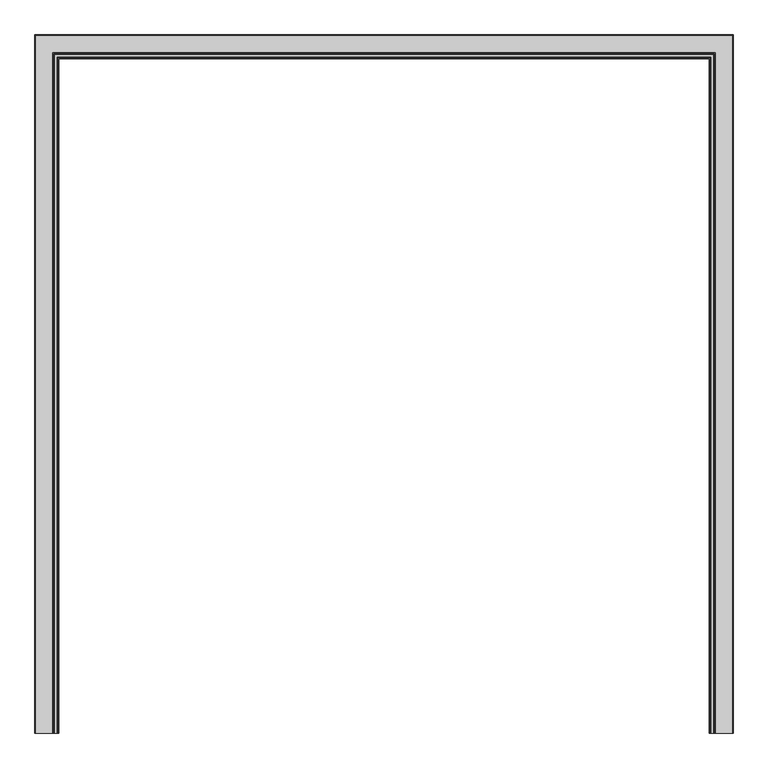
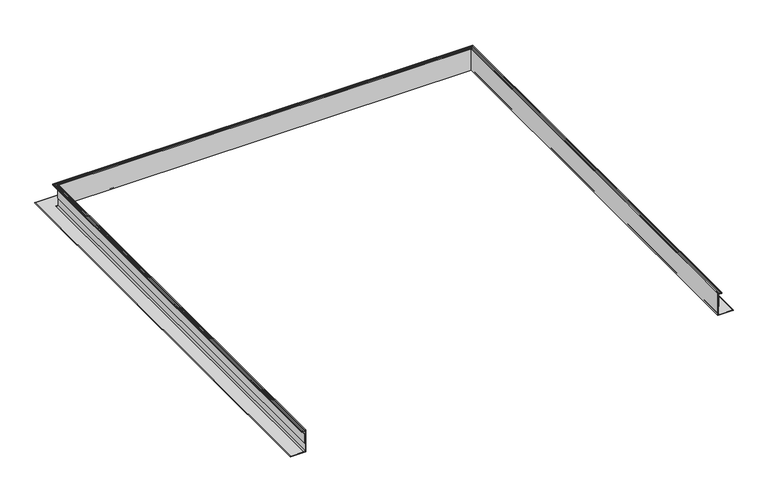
"""IFC4 building model written with IfcOpenShell, lengths in millimetres: fastener geometry."""

from ifc_helpers import new_model, si_unit, frame, origin, place, context, project, spatial, polyline, circle_curve, ellipse_curve, outline, extrude, source, transform, mapped, element, save
from ifc_brep_helpers import plane_surface, cylinder_surface, revolved_surface, advanced_brep


def fastener_5f563760(model_context):
    return source(origin(), model_context, "Body", "SolidModel", [
        advanced_brep(
        [(-1135.3165, -1219.2, -15.1804688), (-1141.2343456, -1219.2, -15.1804688), (-1141.460117, -1219.2, -17.1999455), (-1140.3710112, -1219.2, -18.2679836), (-1140.8594568, -1219.2, -19.21101), (-1152.5091166, -1219.2, -19.21101), (-1152.9649499, -1219.2, -18.2679836), (-1151.9131963, -1219.2, -17.1999455), (-1152.1178999, -1219.2, -15.1804688), (-1156.2117258, -1219.2, -15.1804688), (-1156.2117258, -1219.2, -21.87801), (-1137.9835, -1219.2, -21.87801), (-1137.9835, -1219.2, -131.9625171), (-1145.5344517, -1219.2, -139.5134688), (-1217.8665, -1219.2, -139.5134688), (-1217.8665, -1219.2, -142.1804688), (-1135.3165, -1219.2, -142.1804688), (1135.3165, -1219.2, -15.1804688), (1135.3165, -1219.2, -142.1804688), (1217.8665, -1219.2, -142.1804688), (1217.8665, -1219.2, -139.5134688), (1145.5344517, -1219.2, -139.5134688), (1137.9835, -1219.2, -131.9625171), (1137.9835, -1219.2, -21.87801), (1156.2117258, -1219.2, -21.87801), (1156.2117258, -1219.2, -15.1804688), (1152.1178999, -1219.2, -15.1804688), (1151.9131963, -1219.2, -17.1999455), (1152.9649499, -1219.2, -18.2679836), (1152.5091166, -1219.2, -19.21101), (1140.8594568, -1219.2, -19.21101), (1140.3710112, -1219.2, -18.2679836), (1141.460117, -1219.2, -17.1999455), (1141.2343456, -1219.2, -15.1804688), (-1141.460117, 1141.460117, -17.1999455), (-1141.2343456, 1141.2343456, -15.1804688), (1141.2343456, 1141.2343456, -15.1804688), (1141.460117, 1141.460117, -17.1999455), (-1140.3710112, 1140.3710112, -18.2679836), (1140.3710112, 1140.3710112, -18.2679836), (-1140.8594568, 1140.8594568, -19.21101), (1140.8594568, 1140.8594568, -19.21101), (-1152.9649499, 1152.9649499, -18.2679836), (-1152.5091166, 1152.5091166, -19.21101), (1152.5091166, 1152.5091166, -19.21101), (1152.9649499, 1152.9649499, -18.2679836), (-1151.9131963, 1151.9131963, -17.1999455), (1151.9131963, 1151.9131963, -17.1999455), (-1152.1178999, 1152.1178999, -15.1804688), (1152.1178999, 1152.1178999, -15.1804688), (-1156.2117258, 1156.2117258, -21.87801), (-1156.2117258, 1156.2117258, -15.1804688), (1156.2117258, 1156.2117258, -15.1804688), (1156.2117258, 1156.2117258, -21.87801), (-1137.9835, 1137.9835, -131.9625171), (-1137.9835, 1137.9835, -21.87801), (1137.9835, 1137.9835, -21.87801), (1137.9835, 1137.9835, -131.9625171), (-1145.5344517, 1145.5344517, -139.5134688), (1145.5344517, 1145.5344517, -139.5134688), (-1217.8665, 1217.8665, -142.1804688), (-1217.8665, 1217.8665, -139.5134688), (1217.8665, 1217.8665, -139.5134688), (1217.8665, 1217.8665, -142.1804688), (-1135.3165, 1135.3165, -15.1804688), (-1135.3165, 1135.3165, -142.1804688), (1135.3165, 1135.3165, -142.1804688), (1135.3165, 1135.3165, -15.1804688)],
        [
            (0, 1),
            (1, 2, circle_curve(frame((-1140.5022273, -1219.2, -16.284676), z_axis=(0.0, -1.0, 0.0), x_axis=(-1.0, 0.0, 0.0)), 1.3248664)),
            (2, 3),
            (3, 4, circle_curve(frame((-1140.8594568, -1219.2, -18.6130003), z_axis=(0.0, 1.0, 0.0), x_axis=(-1.0, 0.0, 0.0)), 0.5980097)),
            (4, 5),
            (5, 6, circle_curve(frame((-1152.5091166, -1219.2, -18.6293281), z_axis=(0.0, 1.0, 0.0), x_axis=(-1.0, 0.0, 0.0)), 0.5816819)),
            (6, 7),
            (7, 8, circle_curve(frame((-1152.8274757, -1219.2, -16.2725079), z_axis=(0.0, -1.0, 0.0), x_axis=(-1.0, 0.0, 0.0)), 1.3023238)),
            (8, 9),
            (9, 10),
            (10, 11),
            (11, 12),
            (12, 13, circle_curve(frame((-1145.5344517, -1219.2, -131.9625171), z_axis=(0.0, 1.0, 0.0), x_axis=(-1.0, 0.0, 0.0)), 7.5509517)),
            (13, 14),
            (14, 15, circle_curve(frame((-1217.8665, -1219.2, -140.8469688), z_axis=(0.0, -1.0, 0.0), x_axis=(-1.0, 0.0, 0.0)), 1.3335)),
            (15, 16),
            (16, 0),
            (17, 18),
            (18, 19),
            (19, 20, circle_curve(frame((1217.8665, -1219.2, -140.8469688), z_axis=(0.0, -1.0, 0.0), x_axis=(1.0, 0.0, 0.0)), 1.3335)),
            (20, 21),
            (21, 22, circle_curve(frame((1145.5344517, -1219.2, -131.9625171), z_axis=(0.0, 1.0, 0.0), x_axis=(1.0, 0.0, 0.0)), 7.5509517)),
            (22, 23),
            (23, 24),
            (24, 25),
            (25, 26),
            (26, 27, circle_curve(frame((1152.8274757, -1219.2, -16.2725079), z_axis=(0.0, -1.0, 0.0), x_axis=(1.0, 0.0, 0.0)), 1.3023238)),
            (27, 28),
            (28, 29, circle_curve(frame((1152.5091166, -1219.2, -18.6293281), z_axis=(0.0, 1.0, 0.0), x_axis=(1.0, 0.0, 0.0)), 0.5816819)),
            (29, 30),
            (30, 31, circle_curve(frame((1140.8594568, -1219.2, -18.6130003), z_axis=(0.0, 1.0, 0.0), x_axis=(1.0, 0.0, 0.0)), 0.5980097)),
            (31, 32),
            (32, 33, circle_curve(frame((1140.5022273, -1219.2, -16.284676), z_axis=(0.0, -1.0, 0.0), x_axis=(1.0, 0.0, 0.0)), 1.3248664)),
            (33, 17),
            (34, 35, ellipse_curve(frame((-1140.5022273, 1140.5022273, -16.284676), z_axis=(0.7071067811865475, 0.7071067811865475, 0.0), x_axis=(-0.7071067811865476, 0.7071067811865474, 0.0)), 1.873644, 1.3248664)),
            (35, 36),
            (36, 37, ellipse_curve(frame((1140.5022273, 1140.5022273, -16.284676), z_axis=(-0.7071067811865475, 0.7071067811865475, 0.0), x_axis=(-0.7071067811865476, -0.7071067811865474, 0.0)), 1.873644, 1.3248664)),
            (37, 34),
            (38, 34),
            (37, 39),
            (39, 38),
            (40, 38, ellipse_curve(frame((-1140.8594568, 1140.8594568, -18.6130003), z_axis=(-0.7071067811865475, -0.7071067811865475, 0.0), x_axis=(0.7071067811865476, -0.7071067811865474, 0.0)), 0.8457134, 0.5980097)),
            (39, 41, ellipse_curve(frame((1140.8594568, 1140.8594568, -18.6130003), z_axis=(0.7071067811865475, -0.7071067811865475, 0.0), x_axis=(0.7071067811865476, 0.7071067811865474, 0.0)), 0.8457134, 0.5980097)),
            (41, 40),
            (42, 43, ellipse_curve(frame((-1152.5091166, 1152.5091166, -18.6293281), z_axis=(-0.7071067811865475, -0.7071067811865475, 0.0), x_axis=(0.7071067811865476, -0.7071067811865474, 0.0)), 0.8226224, 0.5816819)),
            (43, 44),
            (44, 45, ellipse_curve(frame((1152.5091166, 1152.5091166, -18.6293281), z_axis=(0.7071067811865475, -0.7071067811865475, 0.0), x_axis=(0.7071067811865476, 0.7071067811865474, 0.0)), 0.8226224, 0.5816819)),
            (45, 42),
            (46, 42),
            (45, 47),
            (47, 46),
            (48, 46, ellipse_curve(frame((-1152.8274757, 1152.8274757, -16.2725079), z_axis=(0.7071067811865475, 0.7071067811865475, 0.0), x_axis=(-0.7071067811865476, 0.7071067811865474, 0.0)), 1.841764, 1.3023238)),
            (47, 49, ellipse_curve(frame((1152.8274757, 1152.8274757, -16.2725079), z_axis=(-0.7071067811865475, 0.7071067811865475, 0.0), x_axis=(-0.7071067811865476, -0.7071067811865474, 0.0)), 1.841764, 1.3023238)),
            (49, 48),
            (50, 51),
            (51, 52),
            (52, 53),
            (53, 50),
            (54, 55),
            (55, 56),
            (56, 57),
            (57, 54),
            (58, 54, ellipse_curve(frame((-1145.5344517, 1145.5344517, -131.9625171), z_axis=(-0.7071067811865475, -0.7071067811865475, 0.0), x_axis=(0.7071067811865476, -0.7071067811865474, 0.0)), 10.6786583, 7.5509517)),
            (57, 59, ellipse_curve(frame((1145.5344517, 1145.5344517, -131.9625171), z_axis=(0.7071067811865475, -0.7071067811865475, 0.0), x_axis=(0.7071067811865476, 0.7071067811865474, 0.0)), 10.6786583, 7.5509517)),
            (59, 58),
            (60, 61, ellipse_curve(frame((-1217.8665, 1217.8665, -140.8469688), z_axis=(0.7071067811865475, 0.7071067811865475, 0.0), x_axis=(-0.7071067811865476, 0.7071067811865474, 0.0)), 1.8858538, 1.3335)),
            (61, 62),
            (62, 63, ellipse_curve(frame((1217.8665, 1217.8665, -140.8469688), z_axis=(-0.7071067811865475, 0.7071067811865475, 0.0), x_axis=(-0.7071067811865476, -0.7071067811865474, 0.0)), 1.8858538, 1.3335)),
            (63, 60),
            (64, 65),
            (65, 66),
            (66, 67),
            (67, 64),
            (0, 64),
            (67, 17),
            (33, 36),
            (35, 1),
            (34, 2),
            (38, 3),
            (40, 4),
            (41, 30),
            (29, 44),
            (43, 5),
            (42, 6),
            (46, 7),
            (48, 8),
            (49, 26),
            (25, 52),
            (51, 9),
            (50, 10),
            (53, 24),
            (23, 56),
            (55, 11),
            (54, 12),
            (58, 13),
            (59, 21),
            (20, 62),
            (61, 14),
            (60, 15),
            (63, 19),
            (18, 66),
            (65, 16),
            (32, 37),
            (31, 39),
            (28, 45),
            (27, 47),
            (22, 57),
        ],
        [
            plane_surface(frame((-1219.2, -1219.2, 0.0), z_axis=(0.0, -1.0, 0.0), x_axis=(0.0, 0.0, 1.0))),
            plane_surface(frame((1219.2, -1219.2, 0.0), z_axis=(0.0, -1.0, 0.0), x_axis=(0.0, 0.0, 1.0))),
            cylinder_surface(frame((-1219.2, 1140.5022273, -16.284676), z_axis=(-1.0, 0.0, 0.0), x_axis=(0.0, 1.0, 0.0)), 1.3248664),
            plane_surface(frame((-1141.460117, 1141.460117, -17.1999455), z_axis=(0.0, 0.7001674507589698, -0.7139786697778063), x_axis=(1.0, 0.0, 0.0))),
            revolved_surface(polyline([(1141.4574664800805, 1141.4574665, -18.6130003), (-1141.4574664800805, 1141.4574665, -18.6130003)]), (-1219.2, 1140.8594568, -18.6130003), (1.0, 0.0, 0.0)),
            revolved_surface(polyline([(1153.090798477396, 1153.0907985, -18.6293281), (-1153.090798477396, 1153.0907985, -18.6293281)]), (-1219.2, 1152.5091166, -18.6293281), (1.0, 0.0, 0.0)),
            plane_surface(frame((-1152.9649499, 1152.9649499, -18.2679836), z_axis=(0.0, -0.712517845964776, -0.701653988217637), x_axis=(1.0, 0.0, 0.0))),
            cylinder_surface(frame((-1219.2, 1152.8274757, -16.2725079), z_axis=(-1.0, 0.0, 0.0), x_axis=(0.0, 1.0, 0.0)), 1.3023238),
            plane_surface(frame((-1156.2117258, 1156.2117258, -15.1804688), z_axis=(0.0, 1.0, 0.0), x_axis=(1.0, 0.0, 0.0))),
            plane_surface(frame((-1137.9835, 1137.9835, -21.87801), z_axis=(0.0, 1.0, 0.0), x_axis=(1.0, 0.0, 0.0))),
            revolved_surface(polyline([(1153.0854033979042, 1153.0854034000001, -131.9625171), (-1153.0854033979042, 1153.0854034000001, -131.9625171)]), (-1219.2, 1145.5344517, -131.9625171), (1.0, 0.0, 0.0)),
            cylinder_surface(frame((-1219.2, 1217.8665, -140.8469688), z_axis=(-1.0, 0.0, 0.0), x_axis=(0.0, 1.0, 0.0)), 1.3335),
            plane_surface(frame((-1135.3165, 1135.3165, -142.1804688), z_axis=(0.0, -1.0, 0.0), x_axis=(1.0, 0.0, 0.0))),
            plane_surface(frame((-1135.3165, -1219.2, -15.1804688), z_axis=(0.0, 0.0, 1.0), x_axis=(0.0, 1.0, 0.0))),
            cylinder_surface(frame((-1140.5022273, -1219.2, -16.284676), z_axis=(0.0, -1.0, 0.0), x_axis=(-1.0, 0.0, 0.0)), 1.3248664),
            plane_surface(frame((-1141.460117, -1219.2, -17.1999455), z_axis=(-0.7001674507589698, 0.0, -0.7139786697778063), x_axis=(0.0, 1.0, 0.0))),
            revolved_surface(polyline([(-1141.4574665, 1141.4574664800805, -18.6130003), (-1141.4574665, -1219.2, -18.6130003)]), (-1140.8594568, -1219.2, -18.6130003), (0.0, 1.0, 0.0)),
            plane_surface(frame((-1140.8594568, -1219.2, -19.21101), z_axis=(0.0, 0.0, 1.0), x_axis=(0.0, 1.0, 0.0))),
            revolved_surface(polyline([(-1153.0907985, 1153.090798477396, -18.6293281), (-1153.0907985, -1219.2, -18.6293281)]), (-1152.5091166, -1219.2, -18.6293281), (0.0, 1.0, 0.0)),
            plane_surface(frame((-1152.9649499, -1219.2, -18.2679836), z_axis=(0.712517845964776, 0.0, -0.701653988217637), x_axis=(0.0, 1.0, 0.0))),
            cylinder_surface(frame((-1152.8274757, -1219.2, -16.2725079), z_axis=(0.0, -1.0, 0.0), x_axis=(-1.0, 0.0, 0.0)), 1.3023238),
            plane_surface(frame((-1152.1178999, -1219.2, -15.1804688), z_axis=(0.0, 0.0, 1.0), x_axis=(0.0, 1.0, 0.0))),
            plane_surface(frame((-1156.2117258, -1219.2, -15.1804688), z_axis=(-1.0, 0.0, 0.0), x_axis=(0.0, 1.0, 0.0))),
            plane_surface(frame((-1156.2117258, -1219.2, -21.87801), z_axis=(0.0, 0.0, -1.0), x_axis=(0.0, 1.0, 0.0))),
            plane_surface(frame((-1137.9835, -1219.2, -21.87801), z_axis=(-1.0, 0.0, 0.0), x_axis=(0.0, 1.0, 0.0))),
            revolved_surface(polyline([(-1153.0854034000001, 1153.0854033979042, -131.9625171), (-1153.0854034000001, -1219.2, -131.9625171)]), (-1145.5344517, -1219.2, -131.9625171), (0.0, 1.0, 0.0)),
            plane_surface(frame((-1145.5344517, -1219.2, -139.5134688), z_axis=(0.0, 0.0, 1.0), x_axis=(0.0, 1.0, 0.0))),
            cylinder_surface(frame((-1217.8665, -1219.2, -140.8469688), z_axis=(0.0, -1.0, 0.0), x_axis=(-1.0, 0.0, 0.0)), 1.3335),
            plane_surface(frame((-1217.8665, -1219.2, -142.1804688), z_axis=(0.0, 0.0, -1.0), x_axis=(0.0, 1.0, 0.0))),
            plane_surface(frame((-1135.3165, -1219.2, -142.1804688), z_axis=(1.0, 0.0, 0.0), x_axis=(0.0, 1.0, 0.0))),
            cylinder_surface(frame((1140.5022273, 1219.2, -16.284676), z_axis=(0.0, 1.0, 0.0), x_axis=(1.0, 0.0, 0.0)), 1.3248664),
            plane_surface(frame((1141.460117, 1141.460117, -17.1999455), z_axis=(0.7001674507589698, 0.0, -0.7139786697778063), x_axis=(0.0, -1.0, 0.0))),
            revolved_surface(polyline([(1141.4574665, -1219.2, -18.6130003), (1141.4574665, 1141.4574664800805, -18.6130003)]), (1140.8594568, 1219.2, -18.6130003), (0.0, -1.0, 0.0)),
            revolved_surface(polyline([(1153.0907985, -1219.2, -18.6293281), (1153.0907985, 1153.090798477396, -18.6293281)]), (1152.5091166, 1219.2, -18.6293281), (0.0, -1.0, 0.0)),
            plane_surface(frame((1152.9649499, 1152.9649499, -18.2679836), z_axis=(-0.712517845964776, 0.0, -0.701653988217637), x_axis=(0.0, -1.0, 0.0))),
            cylinder_surface(frame((1152.8274757, 1219.2, -16.2725079), z_axis=(0.0, 1.0, 0.0), x_axis=(1.0, 0.0, 0.0)), 1.3023238),
            plane_surface(frame((1156.2117258, 1156.2117258, -15.1804688), z_axis=(1.0, 0.0, 0.0), x_axis=(0.0, -1.0, 0.0))),
            plane_surface(frame((1137.9835, 1137.9835, -21.87801), z_axis=(1.0, 0.0, 0.0), x_axis=(0.0, -1.0, 0.0))),
            revolved_surface(polyline([(1153.0854034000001, -1219.2, -131.9625171), (1153.0854034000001, 1153.0854033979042, -131.9625171)]), (1145.5344517, 1219.2, -131.9625171), (0.0, -1.0, 0.0)),
            cylinder_surface(frame((1217.8665, 1219.2, -140.8469688), z_axis=(0.0, 1.0, 0.0), x_axis=(1.0, 0.0, 0.0)), 1.3335),
            plane_surface(frame((1135.3165, 1135.3165, -142.1804688), z_axis=(-1.0, 0.0, 0.0), x_axis=(0.0, -1.0, 0.0))),
        ],
        [
            (0, [[1, 2, 3, 4, 5, 6, 7, 8, 9, 10, 11, 12, 13, 14, 15, 16, 17]]),
            (1, [[18, 19, 20, 21, 22, 23, 24, 25, 26, 27, 28, 29, 30, 31, 32, 33, 34]]),
            (2, [[35, 36, 37, 38]]),
            (3, [[39, -38, 40, 41]]),
            (4, [[42, -41, 43, 44]]),
            (5, [[45, 46, 47, 48]]),
            (6, [[49, -48, 50, 51]]),
            (7, [[52, -51, 53, 54]]),
            (8, [[55, 56, 57, 58]]),
            (9, [[59, 60, 61, 62]]),
            (10, [[63, -62, 64, 65]]),
            (11, [[66, 67, 68, 69]]),
            (12, [[70, 71, 72, 73]]),
            (13, [[-1, 74, -73, 75, -34, 76, -36, 77]]),
            (14, [[-2, -77, -35, 78]]),
            (15, [[-3, -78, -39, 79]]),
            (16, [[-4, -79, -42, 80]]),
            (17, [[-5, -80, -44, 81, -30, 82, -46, 83]]),
            (18, [[-6, -83, -45, 84]]),
            (19, [[-7, -84, -49, 85]]),
            (20, [[-8, -85, -52, 86]]),
            (21, [[-9, -86, -54, 87, -26, 88, -56, 89]]),
            (22, [[-10, -89, -55, 90]]),
            (23, [[-11, -90, -58, 91, -24, 92, -60, 93]]),
            (24, [[-12, -93, -59, 94]]),
            (25, [[-13, -94, -63, 95]]),
            (26, [[-14, -95, -65, 96, -21, 97, -67, 98]]),
            (27, [[-15, -98, -66, 99]]),
            (28, [[-16, -99, -69, 100, -19, 101, -71, 102]]),
            (29, [[-17, -102, -70, -74]]),
            (30, [[-37, -76, -33, 103]]),
            (31, [[-40, -103, -32, 104]]),
            (32, [[-43, -104, -31, -81]]),
            (33, [[-47, -82, -29, 105]]),
            (34, [[-50, -105, -28, 106]]),
            (35, [[-53, -106, -27, -87]]),
            (36, [[-57, -88, -25, -91]]),
            (37, [[-61, -92, -23, 107]]),
            (38, [[-64, -107, -22, -96]]),
            (39, [[-68, -97, -20, -100]]),
            (40, [[-72, -101, -18, -75]]),
        ],
    ),
        extrude(outline(polyline([(-1137.9835, -1219.2), (-1139.9113319, -1219.2), (-1139.9113319, 1139.9113319), (1139.9113319, 1139.9113319), (1139.9113319, -1219.2), (1137.9835, -1219.2), (1137.9835, 1137.9835), (-1137.9835, 1137.9835), (-1137.9835, -1219.2)])), frame((0.0, 0.0, -92.5710938), z_axis=(0.0, 0.0, 1.0), x_axis=(1.0, 0.0, 0.0)), (0.0, 0.0, 1.0), 53.18125),
    ])


if __name__ == "__main__":
    model = new_model("IFC4")
    model_context = context("Model", 3, world=origin())
    ifc_project = project(units=[si_unit("LENGTHUNIT", "METRE", prefix="MILLI")], contexts=[model_context])
    site = spatial("IfcSite", under=ifc_project)
    building = spatial("IfcBuilding", under=site)
    placement = place(None, origin())
    fastener_shape = fastener_5f563760(model_context)
    element("IfcFastener", 1, ObjectType="Structural-Supporting-Components_Advanced-Architectural-Products_GreenGirt-CMH-XO-System : GreenGirt CMH XO 5.0\"", at=placement, inside=building, context=model_context, shape_type="MappedRepresentation", body=[
        mapped(fastener_shape, transform((0.0, 0.0, 0.0), x_axis=(1.0, 0.0, 0.0), y_axis=(0.0, 1.0, 0.0), z_axis=(0.0, 0.0, 1.0))),
    ])
    save(model, "model.ifc")
